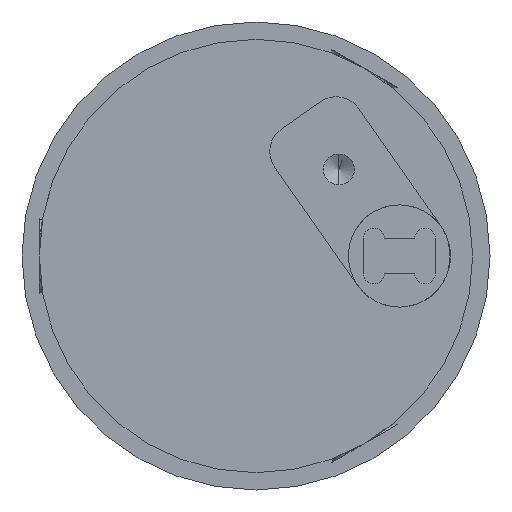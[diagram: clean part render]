
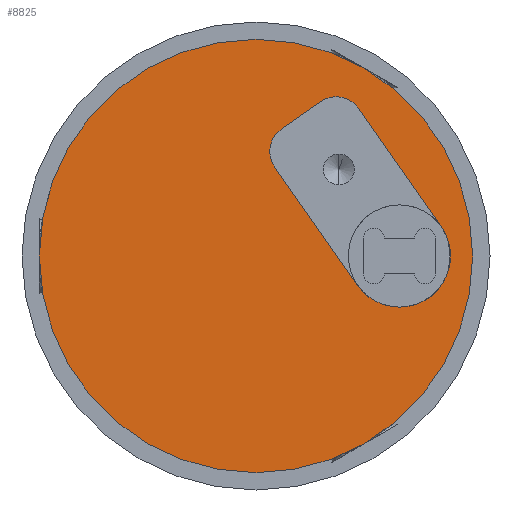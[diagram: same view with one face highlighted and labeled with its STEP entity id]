
A CAD part, left-side view. The second image highlights one B-rep face of the part: STEP entity #8825.
In plain terms, the highlighted planar face has unit normal (-1, 0, 0).
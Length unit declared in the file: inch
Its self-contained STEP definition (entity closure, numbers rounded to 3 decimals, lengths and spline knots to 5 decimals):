
#29 = VERTEX_POINT ( 'NONE', #2988 ) ;
#181 = EDGE_CURVE ( 'NONE', #2420, #4230, #9569, .T. ) ;
#216 = AXIS2_PLACEMENT_3D ( 'NONE', #8978, #3645, #2887 ) ;
#435 = VECTOR ( 'NONE', #2460, 39.37008 ) ;
#459 = ORIENTED_EDGE ( 'NONE', *, *, #2705, .F. ) ;
#527 = LINE ( 'NONE', #9130, #435 ) ;
#707 = VERTEX_POINT ( 'NONE', #3172 ) ;
#798 = PLANE ( 'NONE',  #5348 ) ;
#834 = CIRCLE ( 'NONE', #5209, 0.11614 ) ;
#955 = CARTESIAN_POINT ( 'NONE',  ( 0., 0., 0. ) ) ;
#1053 = DIRECTION ( 'NONE',  ( 1., 0., 0. ) ) ;
#1100 = DIRECTION ( 'NONE',  ( -1., 0., 0. ) ) ;
#1190 = EDGE_CURVE ( 'NONE', #4230, #2420, #9532, .T. ) ;
#1490 = LINE ( 'NONE', #6830, #1850 ) ;
#1761 = DIRECTION ( 'NONE',  ( 0., 0., -1. ) ) ;
#1817 = CARTESIAN_POINT ( 'NONE',  ( 0., -0.05774, 0.28841 ) ) ;
#1850 = VECTOR ( 'NONE', #2324, 39.37008 ) ;
#1954 = VERTEX_POINT ( 'NONE', #8838 ) ;
#2159 = DIRECTION ( 'NONE',  ( 1., 0., 0. ) ) ;
#2284 = CARTESIAN_POINT ( 'NONE',  ( 0., 0., -0.49213 ) ) ;
#2324 = DIRECTION ( 'NONE',  ( 0., -0.574, -0.819 ) ) ;
#2361 = EDGE_LOOP ( 'NONE', ( #6275, #8522 ) ) ;
#2420 = VERTEX_POINT ( 'NONE', #5002 ) ;
#2460 = DIRECTION ( 'NONE',  ( 0., 0.819, -0.574 ) ) ;
#2604 = ORIENTED_EDGE ( 'NONE', *, *, #8527, .F. ) ;
#2613 = AXIS2_PLACEMENT_3D ( 'NONE', #9518, #8787, #5041 ) ;
#2705 = EDGE_CURVE ( 'NONE', #9483, #6009, #834, .T. ) ;
#2828 = LINE ( 'NONE', #6892, #9222 ) ;
#2887 = DIRECTION ( 'NONE',  ( 0., 0., 1. ) ) ;
#2988 = CARTESIAN_POINT ( 'NONE',  ( 0., -0.42093, 0.06662 ) ) ;
#3172 = CARTESIAN_POINT ( 'NONE',  ( 0., -0.23279, 0.3353 ) ) ;
#3220 = EDGE_CURVE ( 'NONE', #1954, #9365, #5237, .T. ) ;
#3455 = EDGE_CURVE ( 'NONE', #1954, #9483, #1490, .T. ) ;
#3530 = CARTESIAN_POINT ( 'NONE',  ( 0., -0.182, 0.29974 ) ) ;
#3645 = DIRECTION ( 'NONE',  ( -1., 0., 0. ) ) ;
#3867 = VERTEX_POINT ( 'NONE', #4761 ) ;
#4230 = VERTEX_POINT ( 'NONE', #2284 ) ;
#4287 = FACE_OUTER_BOUND ( 'NONE', #2361, .T. ) ;
#4396 = EDGE_CURVE ( 'NONE', #29, #707, #2828, .T. ) ;
#4563 = DIRECTION ( 'NONE',  ( 0., 0., -1. ) ) ;
#4673 = FACE_BOUND ( 'NONE', #8908, .T. ) ;
#4761 = CARTESIAN_POINT ( 'NONE',  ( 0., -0.14644, 0.35052 ) ) ;
#4773 = ORIENTED_EDGE ( 'NONE', *, *, #6945, .F. ) ;
#4822 = ORIENTED_EDGE ( 'NONE', *, *, #3220, .T. ) ;
#5002 = CARTESIAN_POINT ( 'NONE',  ( 0., 0., 0.49213 ) ) ;
#5041 = DIRECTION ( 'NONE',  ( 0., 0., -1. ) ) ;
#5209 = AXIS2_PLACEMENT_3D ( 'NONE', #9375, #1100, #9439 ) ;
#5237 = CIRCLE ( 'NONE', #2613, 0.062 ) ;
#5348 = AXIS2_PLACEMENT_3D ( 'NONE', #7588, #9783, #6754 ) ;
#5439 = CIRCLE ( 'NONE', #7172, 0.062 ) ;
#6009 = VERTEX_POINT ( 'NONE', #7108 ) ;
#6275 = ORIENTED_EDGE ( 'NONE', *, *, #181, .F. ) ;
#6444 = ORIENTED_EDGE ( 'NONE', *, *, #3455, .F. ) ;
#6733 = AXIS2_PLACEMENT_3D ( 'NONE', #955, #1053, #1761 ) ;
#6754 = DIRECTION ( 'NONE',  ( 0., 0., -1. ) ) ;
#6830 = CARTESIAN_POINT ( 'NONE',  ( 0., -0.23065, -0.06662 ) ) ;
#6881 = DIRECTION ( 'NONE',  ( 1., 0., 0. ) ) ;
#6892 = CARTESIAN_POINT ( 'NONE',  ( 0., -0.42093, 0.06662 ) ) ;
#6915 = CARTESIAN_POINT ( 'NONE',  ( 0., 0., 0. ) ) ;
#6945 = EDGE_CURVE ( 'NONE', #6009, #29, #8942, .T. ) ;
#7108 = CARTESIAN_POINT ( 'NONE',  ( 0., -0.32579, -0.11614 ) ) ;
#7172 = AXIS2_PLACEMENT_3D ( 'NONE', #3530, #2159, #4563 ) ;
#7276 = ORIENTED_EDGE ( 'NONE', *, *, #4396, .F. ) ;
#7588 = CARTESIAN_POINT ( 'NONE',  ( 0., 0., 0. ) ) ;
#7717 = DIRECTION ( 'NONE',  ( 0., 0., -1. ) ) ;
#7829 = EDGE_CURVE ( 'NONE', #3867, #707, #5439, .T. ) ;
#8522 = ORIENTED_EDGE ( 'NONE', *, *, #1190, .F. ) ;
#8527 = EDGE_CURVE ( 'NONE', #3867, #9365, #527, .T. ) ;
#8726 = ORIENTED_EDGE ( 'NONE', *, *, #7829, .T. ) ;
#8787 = DIRECTION ( 'NONE',  ( 1., 0., 0. ) ) ;
#8825 = ADVANCED_FACE ( 'NONE', ( #4673, #4287 ), #798, .F. ) ;
#8838 = CARTESIAN_POINT ( 'NONE',  ( 0., -0.04252, 0.20207 ) ) ;
#8908 = EDGE_LOOP ( 'NONE', ( #459, #6444, #4822, #2604, #8726, #7276, #4773 ) ) ;
#8942 = CIRCLE ( 'NONE', #216, 0.11614 ) ;
#8957 = AXIS2_PLACEMENT_3D ( 'NONE', #6915, #6881, #7717 ) ;
#8978 = CARTESIAN_POINT ( 'NONE',  ( 0., -0.32579, 0. ) ) ;
#9130 = CARTESIAN_POINT ( 'NONE',  ( 0., -0.00695, 0.25285 ) ) ;
#9178 = DIRECTION ( 'NONE',  ( 0., 0.574, 0.819 ) ) ;
#9222 = VECTOR ( 'NONE', #9178, 39.37008 ) ;
#9365 = VERTEX_POINT ( 'NONE', #1817 ) ;
#9375 = CARTESIAN_POINT ( 'NONE',  ( 0., -0.32579, 0. ) ) ;
#9439 = DIRECTION ( 'NONE',  ( 0., 0., 1. ) ) ;
#9483 = VERTEX_POINT ( 'NONE', #9517 ) ;
#9517 = CARTESIAN_POINT ( 'NONE',  ( 0., -0.23065, -0.06662 ) ) ;
#9518 = CARTESIAN_POINT ( 'NONE',  ( 0., -0.0933, 0.23763 ) ) ;
#9532 = CIRCLE ( 'NONE', #6733, 0.49213 ) ;
#9569 = CIRCLE ( 'NONE', #8957, 0.49213 ) ;
#9783 = DIRECTION ( 'NONE',  ( 1., 0., 0. ) ) ;
